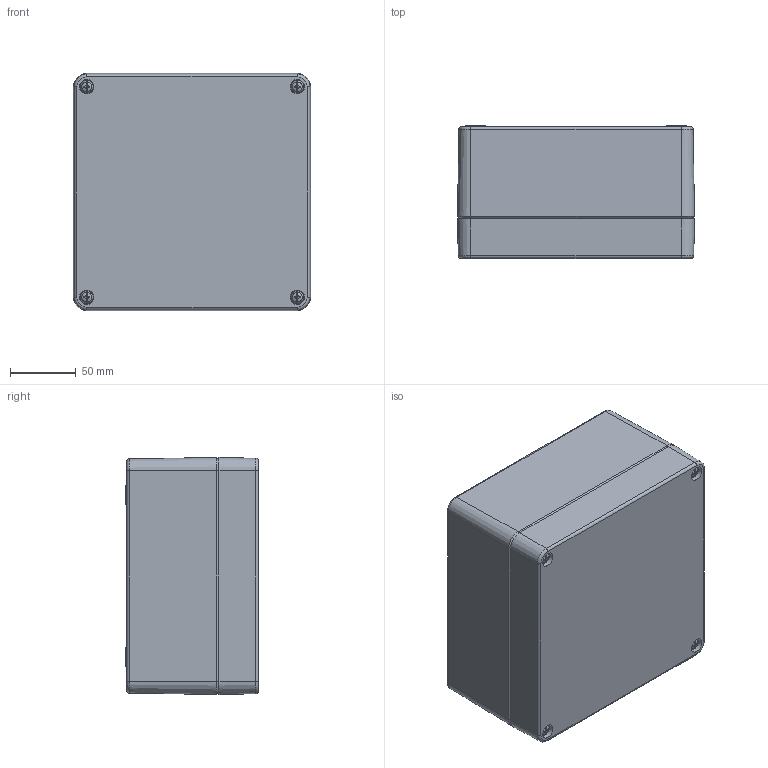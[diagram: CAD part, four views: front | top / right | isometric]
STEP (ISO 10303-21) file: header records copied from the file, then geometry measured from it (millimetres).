
FILE_DESCRIPTION(/* description */ (''),/* implementation_level */ '2;1');
FILE_NAME(/* name */ '1590Z180.stp',/* time_stamp */ '2024-08-19T07:30:23-04:00',/* author */ ('mbeerman'),/* organization */ (''),/* preprocessor_version */ 'ST-DEVELOPER v20',/* originating_system */ 'Autodesk Inventor 2024',/* authorisation */ '');
FILE_SCHEMA (('AUTOMOTIVE_DESIGN { 1 0 10303 214 3 1 1 }'));
Products named in the file (5): 1590Z180; BASE 180X180X101; LID 180X180X101; 1590Z180 gasket; SC564 (SCREW M6X 35mm PH)
Assembly tree (7 placements, depth 2):
  1590Z180
    BASE 180X180X101
    LID 180X180X101
    1590Z180 gasket
    SC564 (SCREW M6X 35mm PH)  x4
Bounding box: 180.2 x 101 x 180.2 mm (x, y, z)
Volume: 729817.2 mm3; surface area: 292092.2 mm2
Topology: 7 solids, 7 shells, 1709 faces, 4403 edges, 2841 vertices
Faces by surface type: plane 799, bspline 479, cylinder 254, cone 106, torus 50, sphere 21
Full cylindrical faces by diameter (mm): 5.28 x4, 5.88 x4, 5.964 x1, 6 x5, 7 x5, 7.952 x8, 9.94 x1, 11.928 x8
Entity records: 60685 total; most frequent: CARTESIAN_POINT 23050, ORIENTED_EDGE 8224, DIRECTION 6958, EDGE_CURVE 4112, VERTEX_POINT 2655, LINE 2450, VECTOR 2450, AXIS2_PLACEMENT_3D 2254
